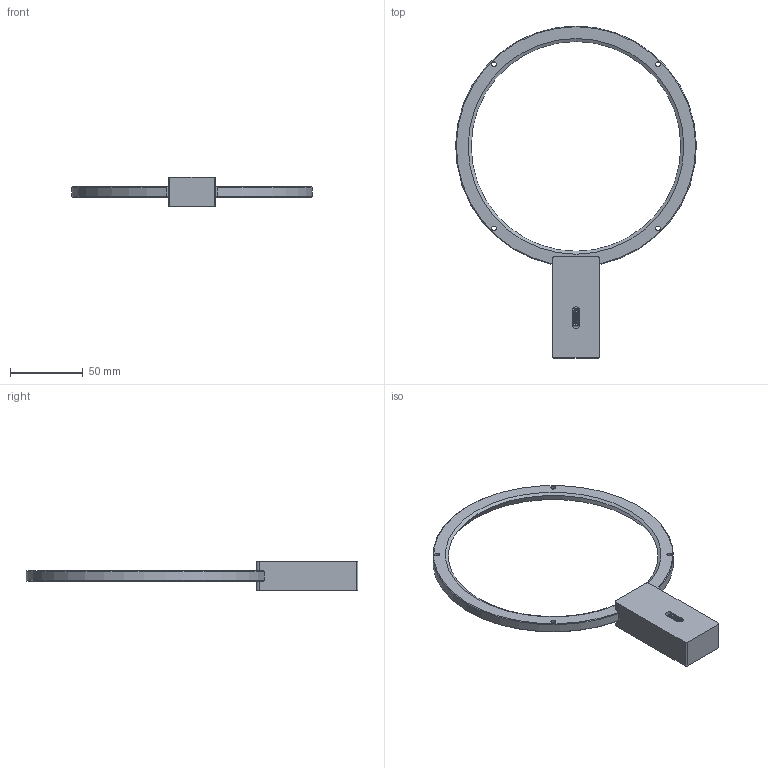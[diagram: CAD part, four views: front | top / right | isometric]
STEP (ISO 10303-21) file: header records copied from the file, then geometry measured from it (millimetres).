
FILE_DESCRIPTION (( 'STEP AP214' ), '1' );
FILE_NAME ('LRLA-160-WH.STEP', '2026-02-04T10:56:44', ( '' ), ( '' ), 'SwSTEP 2.0', 'SolidWorks 2022', '' );
FILE_SCHEMA (( 'AUTOMOTIVE_DESIGN' ));
Length unit declared in the file: millimetre
Products named in the file (1): LRLA-160-WH
Bounding box: 165.97 x 228.89 x 20 mm (x, y, z)
Volume: 74870.4 mm3; surface area: 23728.4 mm2
Topology: 1 solids, 1 shells, 159 faces, 409 edges, 268 vertices
Faces by surface type: plane 142, cylinder 13, cone 4
Full cylindrical faces by diameter (mm): 3.3 x4
Entity records: 6107 total; most frequent: CARTESIAN_POINT 841, ORIENTED_EDGE 804, DIRECTION 749, EDGE_CURVE 402, VECTOR 367, LINE 367, VERTEX_POINT 267, EDGE_LOOP 193
